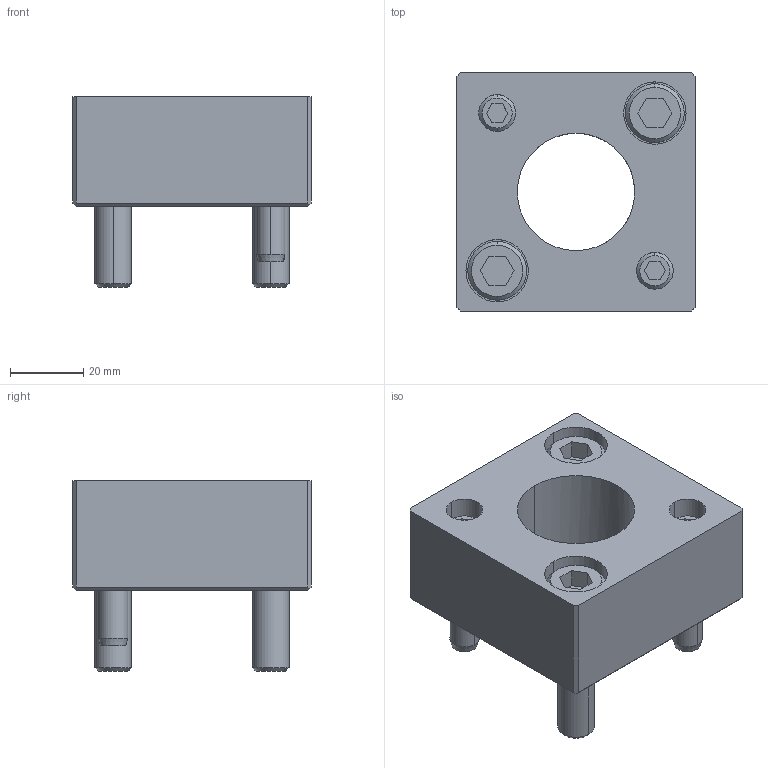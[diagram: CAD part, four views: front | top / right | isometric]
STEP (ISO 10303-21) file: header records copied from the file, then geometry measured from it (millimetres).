
FILE_DESCRIPTION(/* description */ (''),/* implementation_level */ '2;1');
FILE_NAME(/* name */ '3d_mpdr32_04595_r00.stp',/* time_stamp */ '2011-01-10T14:13:29+09:00',/* author */ ('MISUMI'),/* organization */ (''),/* preprocessor_version */ 'ST-DEVELOPER v11',/* originating_system */ 'UGS - NX 5.0',/* authorisation */ '');
FILE_SCHEMA (('CONFIG_CONTROL_DESIGN'));
Length unit declared in the file: millimetre
Products named in the file (1): 3d_mpdr32_04595_r00
Bounding box: 65 x 65 x 52 mm (x, y, z)
Volume: 102384.7 mm3; surface area: 28610.5 mm2
Topology: 7 solids, 7 shells, 139 faces, 310 edges, 199 vertices
Faces by surface type: plane 68, cylinder 45, cone 26
Entity records: 3982 total; most frequent: DIRECTION 700, CARTESIAN_POINT 694, ORIENTED_EDGE 620, EDGE_CURVE 310, AXIS2_PLACEMENT_3D 257, VERTEX_POINT 199, LINE 186, VECTOR 186
